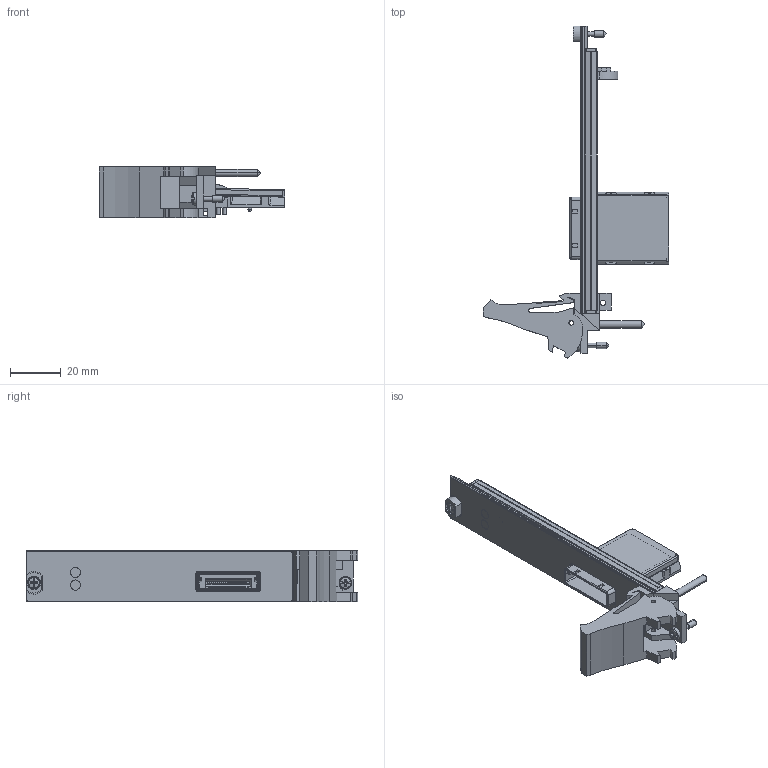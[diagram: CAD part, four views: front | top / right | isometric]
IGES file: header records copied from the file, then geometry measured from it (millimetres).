
Start section:  PTC IGES file: cu_pxie-8370.igs
Global section: file name: cu_pxie-8370.igs; native system: Pro/ENGINEER by Parametric Technology Corporation; preprocessor: 2011490; author: jjorden; organization: Unknown; date: 20130924.164111; units: inch
Bounding box: 73.03 x 130.5 x 20.31 mm (x, y, z)
Surface area: 21486.2 mm2 (no closed solid volume)
Topology: 0 solids, 0 shells, 2125 faces, 12144 edges, 12132 vertices
Faces by surface type: bspline 1556, revolution 569
